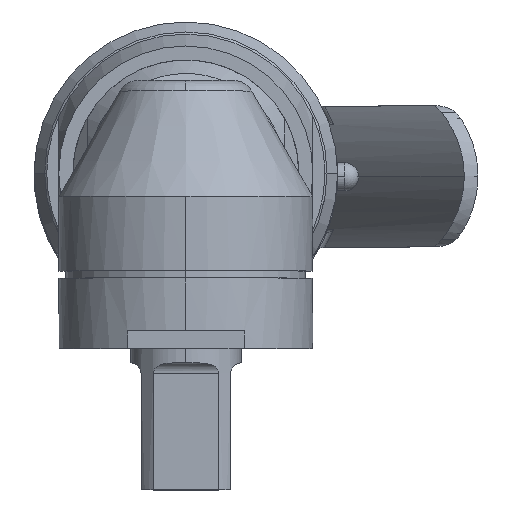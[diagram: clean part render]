
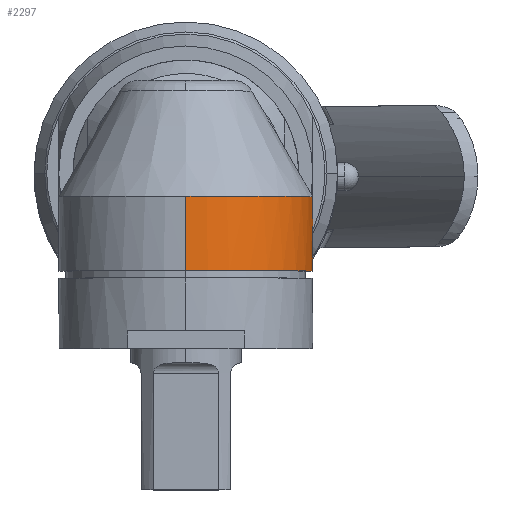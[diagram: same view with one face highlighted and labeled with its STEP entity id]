
A CAD part, top view. The second image highlights one B-rep face of the part: STEP entity #2297.
In plain terms, the highlighted cylindrical face has radius 18 mm (diameter 36 mm), a partial arc.
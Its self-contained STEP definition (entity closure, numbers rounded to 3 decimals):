
#2147 = VERTEX_POINT ( 'NONE', #18548 ) ;
#2148 = EDGE_CURVE ( 'NONE', #2151, #2147, #18547, .T. ) ;
#2150 = VERTEX_POINT ( 'NONE', #18604 ) ;
#2151 = VERTEX_POINT ( 'NONE', #18603 ) ;
#2290 = VERTEX_POINT ( 'NONE', #18940 ) ;
#2295 = EDGE_LOOP ( 'NONE', ( #2430, #2431, #2433, #2435 ) ) ;
#2297 = ADVANCED_FACE ( 'NONE', ( #18937 ), #18935, .T. ) ;
#2375 = EDGE_CURVE ( 'NONE', #2147, #2290, #19231, .T. ) ;
#2430 = ORIENTED_EDGE ( 'NONE', *, *, #2148, .F. ) ;
#2431 = ORIENTED_EDGE ( 'NONE', *, *, #2432, .T. ) ;
#2432 = EDGE_CURVE ( 'NONE', #2151, #2150, #19336, .T. ) ;
#2433 = ORIENTED_EDGE ( 'NONE', *, *, #2434, .T. ) ;
#2434 = EDGE_CURVE ( 'NONE', #2150, #2290, #19326, .T. ) ;
#2435 = ORIENTED_EDGE ( 'NONE', *, *, #2375, .F. ) ;
#18544 = DIRECTION ( 'NONE',  ( 0., 1., 0. ) ) ;
#18545 = VECTOR ( 'NONE', #18544, 1000. ) ;
#18546 = CARTESIAN_POINT ( 'NONE',  ( 0., 18.453, 18. ) ) ;
#18547 = LINE ( 'NONE', #18546, #18545 ) ;
#18548 = CARTESIAN_POINT ( 'NONE',  ( 0., -3.454, 18. ) ) ;
#18603 = CARTESIAN_POINT ( 'NONE',  ( 0., -14., 18. ) ) ;
#18604 = CARTESIAN_POINT ( 'NONE',  ( 0., -14., -18. ) ) ;
#18932 = DIRECTION ( 'NONE',  ( 0., 0., 1. ) ) ;
#18933 = DIRECTION ( 'NONE',  ( 0., 1., 0. ) ) ;
#18934 = AXIS2_PLACEMENT_3D ( 'NONE', #18936, #18933, #18932 ) ;
#18935 = CYLINDRICAL_SURFACE ( 'NONE', #18934, 18. ) ;
#18936 = CARTESIAN_POINT ( 'NONE',  ( 0., 18.453, 0. ) ) ;
#18937 = FACE_OUTER_BOUND ( 'NONE', #2295, .T. ) ;
#18940 = CARTESIAN_POINT ( 'NONE',  ( 13.567, -3.454, -11.829 ) ) ;
#19228 = DIRECTION ( 'NONE',  ( 0., 0., 1. ) ) ;
#19229 = DIRECTION ( 'NONE',  ( 0., 1., 0. ) ) ;
#19230 = AXIS2_PLACEMENT_3D ( 'NONE', #19236, #19229, #19228 ) ;
#19231 = CIRCLE ( 'NONE', #19230, 18. ) ;
#19236 = CARTESIAN_POINT ( 'NONE',  ( 0., -3.454, 0. ) ) ;
#19321 = CARTESIAN_POINT ( 'NONE',  ( 2.828, -13.717, -17.781 ) ) ;
#19322 = CARTESIAN_POINT ( 'NONE',  ( 1.633, -13.928, -17.944 ) ) ;
#19323 = CARTESIAN_POINT ( 'NONE',  ( 0.823, -14., -18. ) ) ;
#19324 = CARTESIAN_POINT ( 'NONE',  ( 0., -14., -18. ) ) ;
#19326 = B_SPLINE_CURVE_WITH_KNOTS ( 'NONE', 3,
 ( #19324, #19323, #19322, #19321, #19384, #19383, #19382, #19381, #19380, #19379, #19378, #19377, #19376, #19375, #19374, #19373, #19372, #19371, #19370, #19369, #19368, #19367, #19366, #19365 ),
 .UNSPECIFIED., .F., .F.,
 ( 4, 2, 2, 2, 2, 2, 2, 2, 2, 2, 2, 4 ),
 ( 0.02, 0.022, 0.023, 0.024, 0.027, 0.029, 0.031, 0.032, 0.034, 0.035, 0.037, 0.039 ),
 .UNSPECIFIED. ) ;
#19328 = DIRECTION ( 'NONE',  ( 0., 0., 1. ) ) ;
#19329 = DIRECTION ( 'NONE',  ( 0., 1., 0. ) ) ;
#19330 = CARTESIAN_POINT ( 'NONE',  ( 0., -14., 0. ) ) ;
#19331 = AXIS2_PLACEMENT_3D ( 'NONE', #19330, #19329, #19328 ) ;
#19336 = CIRCLE ( 'NONE', #19331, 18. ) ;
#19365 = CARTESIAN_POINT ( 'NONE',  ( 13.567, -3.454, -11.829 ) ) ;
#19366 = CARTESIAN_POINT ( 'NONE',  ( 13.371, -4.224, -12.054 ) ) ;
#19367 = CARTESIAN_POINT ( 'NONE',  ( 13.117, -4.953, -12.335 ) ) ;
#19368 = CARTESIAN_POINT ( 'NONE',  ( 12.655, -5.999, -12.802 ) ) ;
#19369 = CARTESIAN_POINT ( 'NONE',  ( 12.488, -6.339, -12.965 ) ) ;
#19370 = CARTESIAN_POINT ( 'NONE',  ( 12.133, -6.996, -13.299 ) ) ;
#19371 = CARTESIAN_POINT ( 'NONE',  ( 11.943, -7.314, -13.47 ) ) ;
#19372 = CARTESIAN_POINT ( 'NONE',  ( 11.341, -8.242, -13.988 ) ) ;
#19373 = CARTESIAN_POINT ( 'NONE',  ( 10.894, -8.825, -14.342 ) ) ;
#19374 = CARTESIAN_POINT ( 'NONE',  ( 10.149, -9.651, -14.869 ) ) ;
#19375 = CARTESIAN_POINT ( 'NONE',  ( 9.888, -9.918, -15.044 ) ) ;
#19376 = CARTESIAN_POINT ( 'NONE',  ( 9.346, -10.43, -15.387 ) ) ;
#19377 = CARTESIAN_POINT ( 'NONE',  ( 9.065, -10.676, -15.554 ) ) ;
#19378 = CARTESIAN_POINT ( 'NONE',  ( 8.189, -11.38, -16.043 ) ) ;
#19379 = CARTESIAN_POINT ( 'NONE',  ( 7.562, -11.807, -16.351 ) ) ;
#19380 = CARTESIAN_POINT ( 'NONE',  ( 6.212, -12.57, -16.91 ) ) ;
#19381 = CARTESIAN_POINT ( 'NONE',  ( 5.503, -12.897, -17.155 ) ) ;
#19382 = CARTESIAN_POINT ( 'NONE',  ( 4.387, -13.301, -17.462 ) ) ;
#19383 = CARTESIAN_POINT ( 'NONE',  ( 4.005, -13.421, -17.553 ) ) ;
#19384 = CARTESIAN_POINT ( 'NONE',  ( 3.223, -13.63, -17.714 ) ) ;
